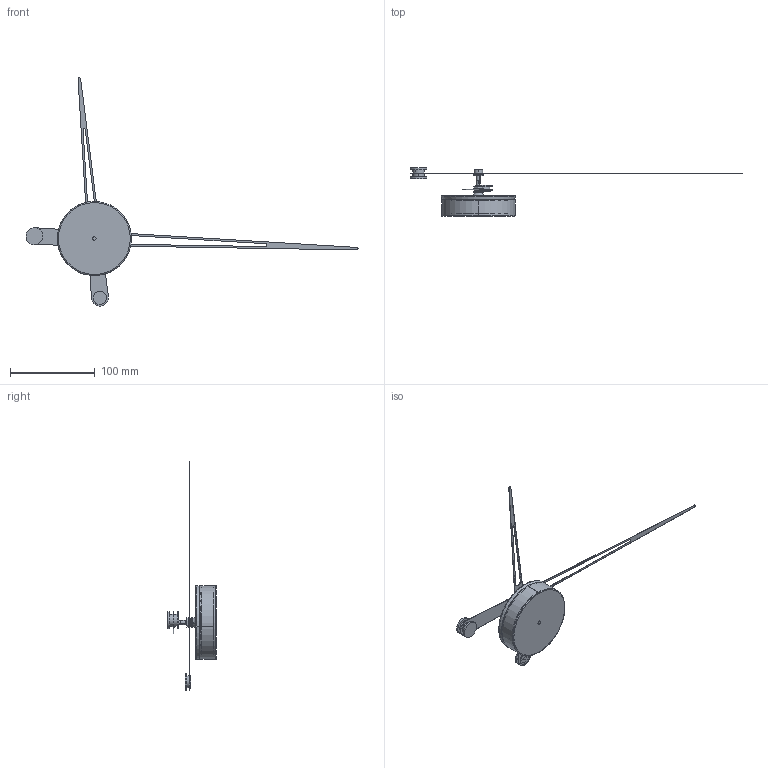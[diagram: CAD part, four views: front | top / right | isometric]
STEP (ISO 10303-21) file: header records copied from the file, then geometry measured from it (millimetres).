
FILE_DESCRIPTION (( 'STEP AP214' ), '1' );
FILE_NAME ('Axioma_i.STEP', '2021-09-06T08:16:28', ( '' ), ( '' ), 'SwSTEP 2.0', 'SolidWorks 2016', '' );
FILE_SCHEMA (( 'AUTOMOTIVE_DESIGN' ));
Length unit declared in the file: millimetre
Products named in the file (20): Tuerca 1.5; Pieza2; Caja_acero_inox; Contrapeso_pequeño; Axioma_i; Pasante; Tuerca; Cierre_contrapeso; Mecanismo; Esparrago; Aguja_horaria_calada_inox; Arandela; Arandela_2; Aguja_minutera_calada_inox; aguja_horaria_calada_inox; Contrapeso_mediano; Embellecedor; aguja_minutera_calada_inox; Pieza_caja_inferior; Pieza_caja_superior
Assembly tree (21 placements, depth 3):
  Axioma_i
    Caja_acero_inox
      Pieza_caja_inferior
      Pieza_caja_superior
      Mecanismo
      Pieza2
    Aguja_minutera_calada_inox
      aguja_minutera_calada_inox
      Contrapeso_mediano  x2
      Arandela_2
      Tuerca 1.5
      Embellecedor
      Esparrago
    Aguja_horaria_calada_inox
      aguja_horaria_calada_inox
      Contrapeso_pequeño
      Cierre_contrapeso
      Arandela
      Tuerca
      Pasante
      Arandela_2
Bounding box: 390.71 x 57.3 x 268.82 mm (x, y, z)
Volume: 68054.5 mm3; surface area: 74648.6 mm2
Topology: 18 solids, 18 shells, 225 faces, 470 edges, 298 vertices
Faces by surface type: cylinder 110, plane 77, torus 26, cone 12
Entity records: 6538 total; most frequent: DIRECTION 1168, CARTESIAN_POINT 954, ORIENTED_EDGE 880, AXIS2_PLACEMENT_3D 492, EDGE_CURVE 440, VERTEX_POINT 278, CIRCLE 256, EDGE_LOOP 252
